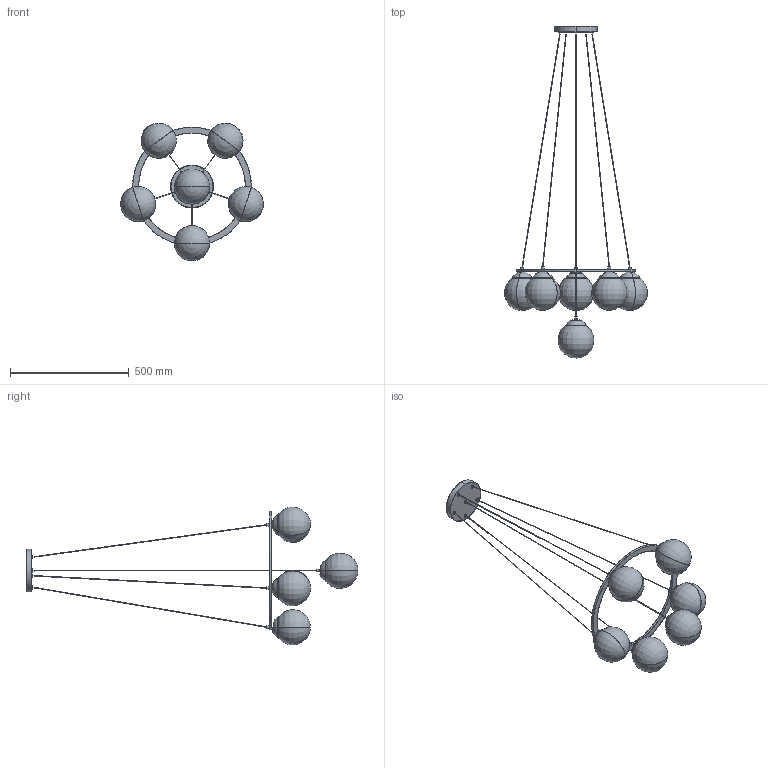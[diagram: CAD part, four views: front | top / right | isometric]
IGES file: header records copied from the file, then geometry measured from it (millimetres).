
Start section: SolidWorks IGES file using analytic representation for surfaces
Global section: file name: F:\燠隴矨\3D\2024-3堎\Nuura Miira Wood Chandelier-6heads.IGS; native system: SolidWorks 2022; preprocessor: SolidWorks 2022; author: MyPC; date: 240304.092959; units: millimetre
Bounding box: 602.86 x 1398.33 x 580.69 mm (x, y, z)
Surface area: 1122872.2 mm2 (no closed solid volume)
Topology: 0 solids, 0 shells, 169 faces, 3666 edges, 3652 vertices
Faces by surface type: revolution 106, bspline 63
